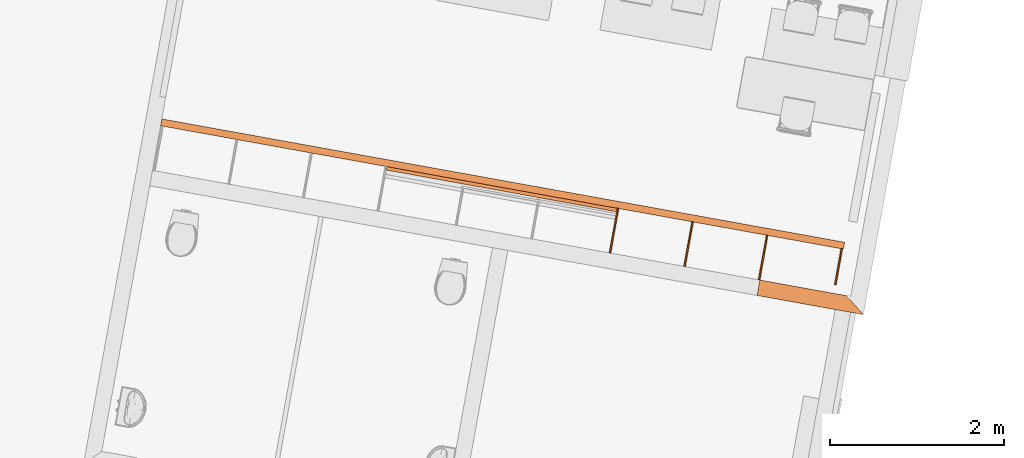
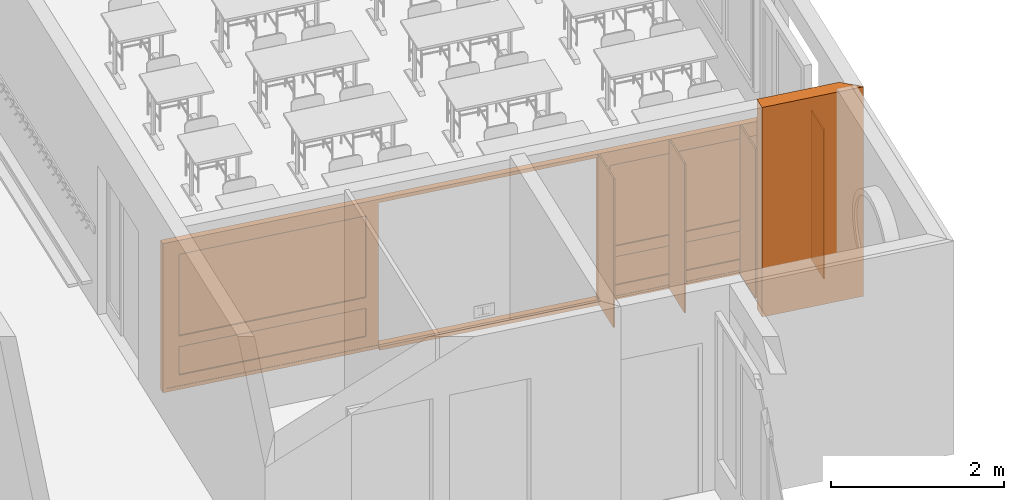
# One storey, part 33 of 79: 7 proxies.
"""IFC2X3 building model written with IfcOpenShell, lengths in metres."""

from ifc_helpers import new_model, entity, si_unit, converted_unit, derived_unit, money_unit, direction, frame, origin_with_axes, place, context, subcontext, project, spatial, polyline, outline, extrude, open_shell, faceted_brep, surface_model, source, transform, mapped, material, type_object, element, save


model = new_model("IFC2X3")

# Units and contexts
model_context = context("Model", 3, precision=1e-05, world=origin_with_axes(), true_north=direction((0.0, 1.0)))
body_context = subcontext(model_context, "Body", "Model", "MODEL_VIEW")
ifc_project = project(units=[si_unit("LENGTHUNIT", "METRE"), si_unit("AREAUNIT", "SQUARE_METRE"), si_unit("VOLUMEUNIT", "CUBIC_METRE"), converted_unit("PLANEANGLEUNIT", "DEGREE", entity("IfcPlaneAngleMeasure", 0.0174532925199), si_unit("PLANEANGLEUNIT", "RADIAN"), dimensions=[0, 0, 0, 0, 0, 0, 0]), money_unit("CHF"), converted_unit("TIMEUNIT", "Year", entity("IfcTimeMeasure", 31556926.0), si_unit("TIMEUNIT", "SECOND"), dimensions=[0, 0, 1, 0, 0, 0, 0]), si_unit("MASSUNIT", "GRAM", prefix="KILO"), si_unit("THERMODYNAMICTEMPERATUREUNIT", "DEGREE_CELSIUS"), si_unit("LUMINOUSINTENSITYUNIT", "LUMEN"), si_unit("ENERGYUNIT", "JOULE", prefix="MEGA"), derived_unit("THERMALCONDUCTANCEUNIT", [(si_unit("POWERUNIT", "WATT"), 1), (si_unit("LENGTHUNIT", "METRE"), -1), (si_unit("THERMODYNAMICTEMPERATUREUNIT", "KELVIN"), -1)]), derived_unit("SPECIFICHEATCAPACITYUNIT", [(si_unit("ENERGYUNIT", "JOULE"), 1), (si_unit("MASSUNIT", "GRAM", prefix="KILO"), -1), (si_unit("THERMODYNAMICTEMPERATUREUNIT", "KELVIN"), -1)]), derived_unit("MASSDENSITYUNIT", [(si_unit("MASSUNIT", "GRAM", prefix="KILO"), 1), (si_unit("VOLUMEUNIT", "CUBIC_METRE"), -1)])], contexts=[model_context])

# Site, building, storey
site_placement = place(None, frame((0.0, 0.0, 0.0), z_axis=(0.0, 0.0, 1.0), x_axis=(-0.177771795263, -0.984071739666, 0.0)))
site = spatial("IfcSite", under=ifc_project, at=site_placement, Name="Site", CompositionType="ELEMENT")
building_placement = place(site_placement, origin_with_axes())
building = spatial("IfcBuilding", under=site, at=building_placement, Name="Bâtiment", CompositionType="ELEMENT")
storey_placement = place(building_placement, origin_with_axes())
storey = spatial("IfcBuildingStorey", under=building, at=storey_placement, Name="RDC", CompositionType="ELEMENT", Elevation=0.0)

# Proxies
ifc_material_1 = material(Name="Matériau de construction IFC")
building_element_proxy_type_1 = type_object("IfcBuildingElementProxyType", Name="porte-couliss-triple_JM2", PredefinedType="NOTDEFINED")
shared_shape = source(origin_with_axes(), body_context, "Body", "SurfaceModel", [
    surface_model("IfcShellBasedSurfaceModel", [(7.92, -0.0799999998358, 0.05), (7.92, -0.0799999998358, 2.05), (7.92, 1.64206426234e-10, 2.05), (7.92, 1.64206426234e-10, 0.05), (7.97, -0.0799999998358, 2.05), (7.97, -0.0799999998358, 0.05), (7.97, 1.64206426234e-10, 2.05), (7.97, 1.64206426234e-10, 0.05)], [open_shell([[[0, 1, 2, 3]], [[4, 1, 0, 5]], [[6, 7, 3, 2]]])]),
    surface_model("IfcShellBasedSurfaceModel", [(7.97, -0.0799999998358, 0.0), (7.97, -0.0799999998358, 2.1), (7.97, 1.64206426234e-10, 2.1), (7.97, 1.64206426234e-10, 0.0)], [open_shell([[[0, 1, 2, 3]]])]),
    surface_model("IfcShellBasedSurfaceModel", [(0.05, -0.0799999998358, 0.05), (7.92, -0.0799999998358, 0.05), (7.92, 1.64206426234e-10, 0.05), (0.05, 1.64206426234e-10, 0.05), (7.92, -0.0799999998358, 0.0), (0.05, -0.0799999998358, 0.0), (7.92, 1.64206426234e-10, 0.0), (0.05, 1.64206426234e-10, 0.0)], [open_shell([[[0, 1, 2, 3]], [[4, 1, 0, 5]], [[6, 7, 3, 2]]])]),
    surface_model("IfcShellBasedSurfaceModel", [(7.97, -0.0799999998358, 0.0), (0.0, -0.0799999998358, 0.0), (0.0, 1.64206426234e-10, 0.0), (7.97, 1.64206426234e-10, 0.0)], [open_shell([[[0, 1, 2, 3]]])]),
    surface_model("IfcShellBasedSurfaceModel", [(7.97, -0.0799999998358, 0.0), (7.97, -0.0799999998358, 0.05), (7.92, -0.0799999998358, 0.05), (7.92, -0.0799999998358, 0.0)], [open_shell([[[0, 1, 2, 3]]])]),
    surface_model("IfcShellBasedSurfaceModel", [(7.97, 1.64206426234e-10, 0.0), (7.97, 1.64206426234e-10, 0.05), (7.92, 1.64206426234e-10, 0.05), (7.92, 1.64206426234e-10, 0.0)], [open_shell([[[0, 1, 2, 3]]])]),
    surface_model("IfcShellBasedSurfaceModel", [(0.05, -0.0799999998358, 0.0), (0.05, -0.0799999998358, 0.05), (0.0, -0.0799999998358, 0.05), (0.0, -0.0799999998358, 0.0)], [open_shell([[[0, 1, 2, 3]]])]),
    surface_model("IfcShellBasedSurfaceModel", [(0.05, 1.64206426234e-10, 0.0), (0.05, 1.64206426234e-10, 0.05), (0.0, 1.64206426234e-10, 0.05), (0.0, 1.64206426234e-10, 0.0)], [open_shell([[[0, 1, 2, 3]]])]),
    surface_model("IfcShellBasedSurfaceModel", [(0.05, -0.0799999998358, 2.05), (0.05, -0.0799999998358, 0.05), (0.05, 1.64206426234e-10, 0.05), (0.05, 1.64206426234e-10, 2.05), (0.0, -0.0799999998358, 0.05), (0.0, -0.0799999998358, 2.05), (0.0, 1.64206426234e-10, 0.05), (0.0, 1.64206426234e-10, 2.05)], [open_shell([[[0, 1, 2, 3]], [[4, 1, 0, 5]], [[6, 7, 3, 2]]])]),
    surface_model("IfcShellBasedSurfaceModel", [(0.0, -0.0799999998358, 0.0), (0.0, -0.0799999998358, 2.1), (0.0, 1.64206426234e-10, 2.1), (0.0, 1.64206426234e-10, 0.0)], [open_shell([[[0, 1, 2, 3]]])]),
    surface_model("IfcShellBasedSurfaceModel", [(7.92, -0.0799999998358, 2.05), (0.05, -0.0799999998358, 2.05), (0.05, 1.64206426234e-10, 2.05), (7.92, 1.64206426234e-10, 2.05), (0.05, -0.0799999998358, 2.1), (7.92, -0.0799999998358, 2.1), (0.05, 1.64206426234e-10, 2.1), (7.92, 1.64206426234e-10, 2.1)], [open_shell([[[0, 1, 2, 3]], [[4, 1, 0, 5]], [[6, 7, 3, 2]]])]),
    surface_model("IfcShellBasedSurfaceModel", [(7.97, -0.0799999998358, 2.1), (0.0, -0.0799999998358, 2.1), (0.0, 1.64206426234e-10, 2.1), (7.97, 1.64206426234e-10, 2.1)], [open_shell([[[0, 1, 2, 3]]])]),
    surface_model("IfcShellBasedSurfaceModel", [(7.97, -0.0799999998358, 2.05), (7.97, -0.0799999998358, 2.1), (7.92, -0.0799999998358, 2.1), (7.92, -0.0799999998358, 2.05)], [open_shell([[[0, 1, 2, 3]]])]),
    surface_model("IfcShellBasedSurfaceModel", [(7.97, 1.64206426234e-10, 2.05), (7.97, 1.64206426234e-10, 2.1), (7.92, 1.64206426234e-10, 2.1), (7.92, 1.64206426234e-10, 2.05)], [open_shell([[[0, 1, 2, 3]]])]),
    surface_model("IfcShellBasedSurfaceModel", [(0.05, -0.0799999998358, 2.05), (0.05, -0.0799999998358, 2.1), (0.0, -0.0799999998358, 2.1), (0.0, -0.0799999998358, 2.05)], [open_shell([[[0, 1, 2, 3]]])]),
    surface_model("IfcShellBasedSurfaceModel", [(0.05, 1.64206426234e-10, 2.05), (0.05, 1.64206426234e-10, 2.1), (0.0, 1.64206426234e-10, 2.1), (0.0, 1.64206426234e-10, 2.05)], [open_shell([[[0, 1, 2, 3]]])]),
    surface_model("IfcShellBasedSurfaceModel", [(7.77, -0.0744999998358, 0.2), (7.77, -0.0744999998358, 1.9), (7.77, -0.00449999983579, 1.9), (7.77, -0.00449999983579, 0.2), (7.92, -0.0744999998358, 1.9), (7.92, -0.0744999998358, 0.2), (7.92, -0.00449999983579, 1.9), (7.92, -0.00449999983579, 0.2)], [open_shell([[[0, 1, 2, 3]], [[4, 1, 0, 5]], [[6, 7, 3, 2]]])]),
    surface_model("IfcShellBasedSurfaceModel", [(7.92, -0.0744999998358, 0.05), (7.92, -0.0744999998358, 2.05), (7.92, -0.00449999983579, 2.05), (7.92, -0.00449999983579, 0.05)], [open_shell([[[0, 1, 2, 3]]])]),
    surface_model("IfcShellBasedSurfaceModel", [(5.48, -0.0744999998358, 0.2), (7.77, -0.0744999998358, 0.2), (7.77, -0.00449999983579, 0.2), (5.48, -0.00449999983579, 0.2), (7.77, -0.0744999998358, 0.05), (5.48, -0.0744999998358, 0.05), (7.77, -0.00449999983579, 0.05), (5.48, -0.00449999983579, 0.05)], [open_shell([[[0, 1, 2, 3]], [[4, 1, 0, 5]], [[6, 7, 3, 2]]])]),
    surface_model("IfcShellBasedSurfaceModel", [(7.92, -0.0744999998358, 0.05), (5.33, -0.0744999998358, 0.05), (5.33, -0.00449999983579, 0.05), (7.92, -0.00449999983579, 0.05)], [open_shell([[[0, 1, 2, 3]]])]),
    surface_model("IfcShellBasedSurfaceModel", [(7.92, -0.0744999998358, 0.05), (7.92, -0.0744999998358, 0.2), (7.77, -0.0744999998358, 0.2), (7.77, -0.0744999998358, 0.05)], [open_shell([[[0, 1, 2, 3]]])]),
    surface_model("IfcShellBasedSurfaceModel", [(7.92, -0.00449999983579, 0.05), (7.92, -0.00449999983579, 0.2), (7.77, -0.00449999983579, 0.2), (7.77, -0.00449999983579, 0.05)], [open_shell([[[0, 1, 2, 3]]])]),
    surface_model("IfcShellBasedSurfaceModel", [(5.48, -0.0744999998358, 0.05), (5.48, -0.0744999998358, 0.2), (5.33, -0.0744999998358, 0.2), (5.33, -0.0744999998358, 0.05)], [open_shell([[[0, 1, 2, 3]]])]),
    surface_model("IfcShellBasedSurfaceModel", [(5.48, -0.00449999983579, 0.05), (5.48, -0.00449999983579, 0.2), (5.33, -0.00449999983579, 0.2), (5.33, -0.00449999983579, 0.05)], [open_shell([[[0, 1, 2, 3]]])]),
    surface_model("IfcShellBasedSurfaceModel", [(5.48, -0.0744999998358, 1.9), (5.48, -0.0744999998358, 0.2), (5.48, -0.00449999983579, 0.2), (5.48, -0.00449999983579, 1.9), (5.33, -0.0744999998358, 0.2), (5.33, -0.0744999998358, 1.9), (5.33, -0.00449999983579, 0.2), (5.33, -0.00449999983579, 1.9)], [open_shell([[[0, 1, 2, 3]], [[4, 1, 0, 5]], [[6, 7, 3, 2]]])]),
    surface_model("IfcShellBasedSurfaceModel", [(5.33, -0.0744999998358, 0.05), (5.33, -0.0744999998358, 2.05), (5.33, -0.00449999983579, 2.05), (5.33, -0.00449999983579, 0.05)], [open_shell([[[0, 1, 2, 3]]])]),
    surface_model("IfcShellBasedSurfaceModel", [(7.77, -0.0744999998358, 1.9), (5.48, -0.0744999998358, 1.9), (5.48, -0.00449999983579, 1.9), (7.77, -0.00449999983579, 1.9), (5.48, -0.0744999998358, 2.05), (7.77, -0.0744999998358, 2.05), (5.48, -0.00449999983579, 2.05), (7.77, -0.00449999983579, 2.05)], [open_shell([[[0, 1, 2, 3]], [[4, 1, 0, 5]], [[6, 7, 3, 2]]])]),
    surface_model("IfcShellBasedSurfaceModel", [(7.92, -0.0744999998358, 2.05), (5.33, -0.0744999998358, 2.05), (5.33, -0.00449999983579, 2.05), (7.92, -0.00449999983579, 2.05)], [open_shell([[[0, 1, 2, 3]]])]),
    surface_model("IfcShellBasedSurfaceModel", [(7.92, -0.0744999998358, 1.9), (7.92, -0.0744999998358, 2.05), (7.77, -0.0744999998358, 2.05), (7.77, -0.0744999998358, 1.9)], [open_shell([[[0, 1, 2, 3]]])]),
    surface_model("IfcShellBasedSurfaceModel", [(7.92, -0.00449999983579, 1.9), (7.92, -0.00449999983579, 2.05), (7.77, -0.00449999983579, 2.05), (7.77, -0.00449999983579, 1.9)], [open_shell([[[0, 1, 2, 3]]])]),
    surface_model("IfcShellBasedSurfaceModel", [(5.48, -0.0744999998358, 1.9), (5.48, -0.0744999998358, 2.05), (5.33, -0.0744999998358, 2.05), (5.33, -0.0744999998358, 1.9)], [open_shell([[[0, 1, 2, 3]]])]),
    surface_model("IfcShellBasedSurfaceModel", [(5.48, -0.00449999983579, 1.9), (5.48, -0.00449999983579, 2.05), (5.33, -0.00449999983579, 2.05), (5.33, -0.00449999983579, 1.9)], [open_shell([[[0, 1, 2, 3]]])]),
    faceted_brep([(5.48, -0.0194999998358, 0.2), (7.77, -0.0194999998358, 0.2), (7.77, -0.0594999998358, 0.2), (5.48, -0.0594999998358, 0.2), (5.48, -0.0194999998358, 0.6), (7.77, -0.0194999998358, 0.6), (7.77, -0.0594999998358, 0.6), (5.48, -0.0594999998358, 0.6)], [[[0, 1, 2, 3]], [[1, 0, 4, 5]], [[2, 1, 5, 6]], [[3, 2, 6, 7]], [[0, 3, 7, 4]], [[5, 4, 7, 6]]]),
    faceted_brep([(5.48, -0.00449999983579, 0.6), (7.77, -0.00449999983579, 0.6), (7.77, -0.0744999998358, 0.6), (5.48, -0.0744999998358, 0.6), (5.48, -0.00449999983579, 0.75), (7.77, -0.00449999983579, 0.75), (7.77, -0.0744999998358, 0.75), (5.48, -0.0744999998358, 0.75)], [[[0, 1, 2, 3]], [[1, 0, 4, 5]], [[2, 1, 5, 6]], [[3, 2, 6, 7]], [[0, 3, 7, 4]], [[5, 4, 7, 6]]]),
    faceted_brep([(5.48, -0.0194999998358, 0.75), (7.77, -0.0194999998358, 0.75), (7.77, -0.0594999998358, 0.75), (5.48, -0.0594999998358, 0.75), (5.48, -0.0194999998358, 1.9), (7.77, -0.0194999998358, 1.9), (7.77, -0.0594999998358, 1.9), (5.48, -0.0594999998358, 1.9)], [[[0, 1, 2, 3]], [[1, 0, 4, 5]], [[2, 1, 5, 6]], [[3, 2, 6, 7]], [[0, 3, 7, 4]], [[5, 4, 7, 6]]]),
    surface_model("IfcShellBasedSurfaceModel", [(2.49, -0.0744999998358, 0.2), (2.49, -0.0744999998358, 1.9), (2.49, -0.00449999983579, 1.9), (2.49, -0.00449999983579, 0.2), (2.64, -0.0744999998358, 1.9), (2.64, -0.0744999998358, 0.2), (2.64, -0.00449999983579, 1.9), (2.64, -0.00449999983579, 0.2)], [open_shell([[[0, 1, 2, 3]], [[4, 1, 0, 5]], [[6, 7, 3, 2]]])]),
    surface_model("IfcShellBasedSurfaceModel", [(2.64, -0.0744999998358, 0.05), (2.64, -0.0744999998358, 2.05), (2.64, -0.00449999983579, 2.05), (2.64, -0.00449999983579, 0.05)], [open_shell([[[0, 1, 2, 3]]])]),
    surface_model("IfcShellBasedSurfaceModel", [(0.2, -0.0744999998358, 0.2), (2.49, -0.0744999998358, 0.2), (2.49, -0.00449999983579, 0.2), (0.2, -0.00449999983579, 0.2), (2.49, -0.0744999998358, 0.05), (0.2, -0.0744999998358, 0.05), (2.49, -0.00449999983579, 0.05), (0.2, -0.00449999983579, 0.05)], [open_shell([[[0, 1, 2, 3]], [[4, 1, 0, 5]], [[6, 7, 3, 2]]])]),
    surface_model("IfcShellBasedSurfaceModel", [(2.64, -0.0744999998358, 0.05), (0.05, -0.0744999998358, 0.05), (0.05, -0.00449999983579, 0.05), (2.64, -0.00449999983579, 0.05)], [open_shell([[[0, 1, 2, 3]]])]),
    surface_model("IfcShellBasedSurfaceModel", [(2.64, -0.0744999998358, 0.05), (2.64, -0.0744999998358, 0.2), (2.49, -0.0744999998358, 0.2), (2.49, -0.0744999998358, 0.05)], [open_shell([[[0, 1, 2, 3]]])]),
    surface_model("IfcShellBasedSurfaceModel", [(2.64, -0.00449999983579, 0.05), (2.64, -0.00449999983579, 0.2), (2.49, -0.00449999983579, 0.2), (2.49, -0.00449999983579, 0.05)], [open_shell([[[0, 1, 2, 3]]])]),
    surface_model("IfcShellBasedSurfaceModel", [(0.2, -0.0744999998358, 0.05), (0.2, -0.0744999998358, 0.2), (0.05, -0.0744999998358, 0.2), (0.05, -0.0744999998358, 0.05)], [open_shell([[[0, 1, 2, 3]]])]),
    surface_model("IfcShellBasedSurfaceModel", [(0.2, -0.00449999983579, 0.05), (0.2, -0.00449999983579, 0.2), (0.05, -0.00449999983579, 0.2), (0.05, -0.00449999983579, 0.05)], [open_shell([[[0, 1, 2, 3]]])]),
    surface_model("IfcShellBasedSurfaceModel", [(0.2, -0.0744999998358, 1.9), (0.2, -0.0744999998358, 0.2), (0.2, -0.00449999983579, 0.2), (0.2, -0.00449999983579, 1.9), (0.05, -0.0744999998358, 0.2), (0.05, -0.0744999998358, 1.9), (0.05, -0.00449999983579, 0.2), (0.05, -0.00449999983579, 1.9)], [open_shell([[[0, 1, 2, 3]], [[4, 1, 0, 5]], [[6, 7, 3, 2]]])]),
    surface_model("IfcShellBasedSurfaceModel", [(0.05, -0.0744999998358, 0.05), (0.05, -0.0744999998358, 2.05), (0.05, -0.00449999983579, 2.05), (0.05, -0.00449999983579, 0.05)], [open_shell([[[0, 1, 2, 3]]])]),
    surface_model("IfcShellBasedSurfaceModel", [(2.49, -0.0744999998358, 1.9), (0.2, -0.0744999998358, 1.9), (0.2, -0.00449999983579, 1.9), (2.49, -0.00449999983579, 1.9), (0.2, -0.0744999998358, 2.05), (2.49, -0.0744999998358, 2.05), (0.2, -0.00449999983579, 2.05), (2.49, -0.00449999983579, 2.05)], [open_shell([[[0, 1, 2, 3]], [[4, 1, 0, 5]], [[6, 7, 3, 2]]])]),
    surface_model("IfcShellBasedSurfaceModel", [(2.64, -0.0744999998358, 2.05), (0.05, -0.0744999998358, 2.05), (0.05, -0.00449999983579, 2.05), (2.64, -0.00449999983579, 2.05)], [open_shell([[[0, 1, 2, 3]]])]),
    surface_model("IfcShellBasedSurfaceModel", [(2.64, -0.0744999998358, 1.9), (2.64, -0.0744999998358, 2.05), (2.49, -0.0744999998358, 2.05), (2.49, -0.0744999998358, 1.9)], [open_shell([[[0, 1, 2, 3]]])]),
    surface_model("IfcShellBasedSurfaceModel", [(2.64, -0.00449999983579, 1.9), (2.64, -0.00449999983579, 2.05), (2.49, -0.00449999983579, 2.05), (2.49, -0.00449999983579, 1.9)], [open_shell([[[0, 1, 2, 3]]])]),
    surface_model("IfcShellBasedSurfaceModel", [(0.2, -0.0744999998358, 1.9), (0.2, -0.0744999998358, 2.05), (0.05, -0.0744999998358, 2.05), (0.05, -0.0744999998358, 1.9)], [open_shell([[[0, 1, 2, 3]]])]),
    surface_model("IfcShellBasedSurfaceModel", [(0.2, -0.00449999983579, 1.9), (0.2, -0.00449999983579, 2.05), (0.05, -0.00449999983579, 2.05), (0.05, -0.00449999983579, 1.9)], [open_shell([[[0, 1, 2, 3]]])]),
    faceted_brep([(0.2, -0.0194999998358, 0.2), (2.49, -0.0194999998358, 0.2), (2.49, -0.0594999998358, 0.2), (0.2, -0.0594999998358, 0.2), (0.2, -0.0194999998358, 0.6), (2.49, -0.0194999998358, 0.6), (2.49, -0.0594999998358, 0.6), (0.2, -0.0594999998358, 0.6)], [[[0, 1, 2, 3]], [[1, 0, 4, 5]], [[2, 1, 5, 6]], [[3, 2, 6, 7]], [[0, 3, 7, 4]], [[5, 4, 7, 6]]]),
    faceted_brep([(0.2, -0.00449999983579, 0.6), (2.49, -0.00449999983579, 0.6), (2.49, -0.0744999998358, 0.6), (0.2, -0.0744999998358, 0.6), (0.2, -0.00449999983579, 0.75), (2.49, -0.00449999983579, 0.75), (2.49, -0.0744999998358, 0.75), (0.2, -0.0744999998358, 0.75)], [[[0, 1, 2, 3]], [[1, 0, 4, 5]], [[2, 1, 5, 6]], [[3, 2, 6, 7]], [[0, 3, 7, 4]], [[5, 4, 7, 6]]]),
    faceted_brep([(0.2, -0.0194999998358, 0.75), (2.49, -0.0194999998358, 0.75), (2.49, -0.0594999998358, 0.75), (0.2, -0.0594999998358, 0.75), (0.2, -0.0194999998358, 1.9), (2.49, -0.0194999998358, 1.9), (2.49, -0.0594999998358, 1.9), (0.2, -0.0594999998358, 1.9)], [[[0, 1, 2, 3]], [[1, 0, 4, 5]], [[2, 1, 5, 6]], [[3, 2, 6, 7]], [[0, 3, 7, 4]], [[5, 4, 7, 6]]]),
])
proxy_1_placement = place(storey_placement, frame((137.23484124, -156.447151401, 0.0), z_axis=(0.0, 0.0, 1.0), x_axis=(0.0, 1.0, 0.0)))
element("IfcBuildingElementProxy", 1, at=proxy_1_placement, inside=storey, type_object=building_element_proxy_type_1, material=ifc_material_1, Name="coulissant-classe", context=body_context, shape_type="MappedRepresentation", body=[
    mapped(shared_shape, transform((0.0, 0.0, 0.0))),
])
ifc_material_2 = material(Name="_panneau mélaminé")
building_element_proxy_type_2 = type_object("IfcBuildingElementProxyType", Name="_panneau mélaminé 19", PredefinedType="NOTDEFINED")
proxy_2_placement = place(storey_placement, frame((137.83484124, -149.367651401, 0.0), z_axis=(0.0, 0.0, 1.0), x_axis=(-1.0, 0.0, 0.0)))
element("IfcBuildingElementProxy", 2, at=proxy_2_placement, inside=storey, type_object=building_element_proxy_type_2, material=ifc_material_2, Name="cloison pl-classe", context=body_context, shape_type="SweptSolid", body=[
    extrude(outline(polyline([(0.0, -0.0095), (0.519999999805, -0.0095), (0.519999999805, 0.0095), (0.0, 0.0095), (0.0, -0.0095)])), origin_with_axes(), (0.0, 0.0, 1.0), 2.1),
])
proxy_3_placement = place(storey_placement, frame((137.834841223, -151.107651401, 0.0), z_axis=(0.0, 0.0, 1.0), x_axis=(-1.0, 0.0, 0.0)))
element("IfcBuildingElementProxy", 3, at=proxy_3_placement, inside=storey, type_object=building_element_proxy_type_2, material=ifc_material_2, Name="cloison pl-classe", context=body_context, shape_type="SweptSolid", body=[
    extrude(outline(polyline([(0.0, -0.0095), (0.519999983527, -0.0095), (0.519999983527, 0.0095), (0.0, 0.0095), (0.0, -0.0095)])), origin_with_axes(), (0.0, 0.0, 1.0), 2.1),
])
proxy_4_placement = place(storey_placement, frame((137.83484124, -150.237651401, 0.0), z_axis=(0.0, 0.0, 1.0), x_axis=(-1.0, 0.0, 0.0)))
element("IfcBuildingElementProxy", 4, at=proxy_4_placement, inside=storey, type_object=building_element_proxy_type_2, material=ifc_material_2, Name="cloison pl-classe", context=body_context, shape_type="SweptSolid", body=[
    extrude(outline(polyline([(0.0, -0.0095), (0.519999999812, -0.0095), (0.519999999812, 0.0095), (0.0, 0.0095), (0.0, -0.0095)])), origin_with_axes(), (0.0, 0.0, 1.0), 2.1),
])
proxy_5_placement = place(storey_placement, frame((137.734841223, -148.506151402, 0.0), z_axis=(0.0, 0.0, 1.0), x_axis=(-1.0, 0.0, 0.0)))
element("IfcBuildingElementProxy", 5, at=proxy_5_placement, inside=storey, type_object=building_element_proxy_type_2, material=ifc_material_2, Name="cloison pl-classe", context=body_context, shape_type="SweptSolid", body=[
    extrude(outline(polyline([(0.0, -0.019), (0.41999998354, -0.019), (0.41999998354, 0.0), (0.0, 0.0), (0.0, -0.019)])), origin_with_axes(), (0.0, 0.0, 1.0), 2.1),
])
ifc_material_3 = material(Name="_BA banché RAL9007")
building_element_proxy_type_3 = type_object("IfcBuildingElementProxyType", Name="_M ext 18 +10 gris 280", PredefinedType="NOTDEFINED")
proxy_6_placement = place(storey_placement, frame((138.014841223, -149.358151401, -0.15), z_axis=(0.0, 0.0, 1.0), x_axis=(0.0, 1.0, 0.0)))
element("IfcBuildingElementProxy", 6, at=proxy_6_placement, inside=storey, type_object=building_element_proxy_type_3, material=ifc_material_3, Name="M retour_isol", context=body_context, shape_type="SweptSolid", body=[
    extrude(outline(polyline([(0.0, 0.0), (1.24100070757, 0.0), (1.00957212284, 0.18), (0.0, 0.18), (0.0, 0.0)])), origin_with_axes(), (0.0, 0.0, 1.0), 2.95),
])
ifc_material_4 = material(Name="_Bois contreplaqué")
building_element_proxy_type_4 = type_object("IfcBuildingElementProxyType", Name="_Bois contreplaqué 50", PredefinedType="NOTDEFINED")
proxy_7_placement = place(storey_placement, frame((137.314841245, -153.807151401, 0.05), z_axis=(0.0, 0.0, 1.0), x_axis=(1.0, 0.0, 0.0)))
element("IfcBuildingElementProxy", 7, at=proxy_7_placement, inside=storey, type_object=building_element_proxy_type_4, material=ifc_material_4, Name="socle-tableau", context=body_context, shape_type="SweptSolid", body=[
    extrude(outline(polyline([(0.0, 0.0), (0.0400000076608, 0.0), (0.0400000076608, 2.69), (0.0, 2.69), (0.0, 0.0)])), frame((0.0, 0.0, -0.05), z_axis=(0.0, 0.0, 1.0), x_axis=(1.0, 0.0, 0.0)), (0.0, 0.0, 1.0), 0.05),
])

save(model, "model.ifc")
